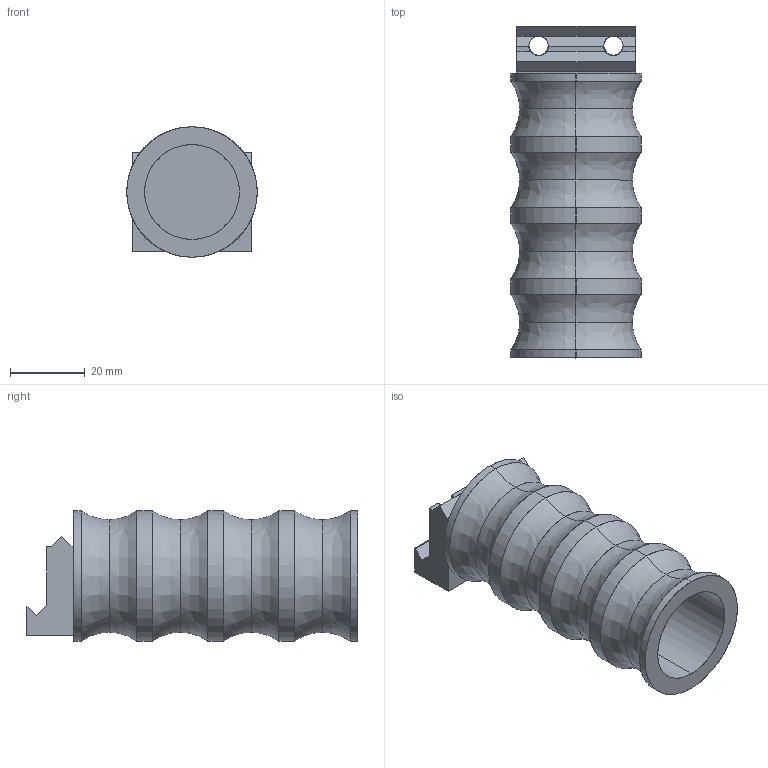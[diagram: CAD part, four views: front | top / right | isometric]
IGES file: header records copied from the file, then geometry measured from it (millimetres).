
Start section: SolidWorks IGES file using analytic representation for surfaces
Global section: file name: C:\Users\Shane\Desktop\ForeGrip-Body.IGS; native system: SolidWorks 2011; preprocessor: SolidWorks 2011; author: Shane; date: 120419.093350; units: inch
Bounding box: 34.92 x 88.9 x 34.92 mm (x, y, z)
Surface area: 17371.7 mm2 (no closed solid volume)
Topology: 0 solids, 0 shells, 60 faces, 596 edges, 596 vertices
Faces by surface type: bspline 44, revolution 16
